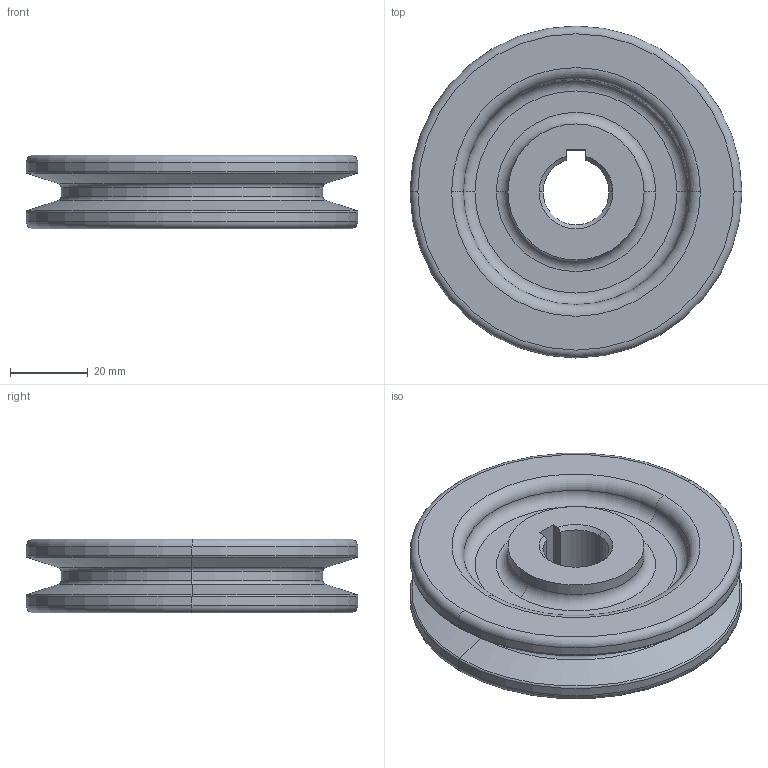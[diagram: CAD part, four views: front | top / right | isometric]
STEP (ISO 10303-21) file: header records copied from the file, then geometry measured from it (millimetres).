
FILE_DESCRIPTION (( 'STEP AP203' ), '1' );
FILE_NAME ('381225E1001-睡ヶ紫.STEP', '2018-12-27T09:13:16', ( '123132' ), ( '' ), 'SwSTEP 2.0', 'SolidWorks 2013', '' );
FILE_SCHEMA (( 'CONFIG_CONTROL_DESIGN' ));
Length unit declared in the file: millimetre
Products named in the file (1): 381225E1001-睡ヶ紫
Bounding box: 85.4 x 85.4 x 19 mm (x, y, z)
Volume: 69058.5 mm3; surface area: 21579.8 mm2
Topology: 1 solids, 1 shells, 56 faces, 118 edges, 68 vertices
Faces by surface type: torus 24, cylinder 13, cone 10, plane 9
Entity records: 1595 total; most frequent: DIRECTION 312, CARTESIAN_POINT 255, ORIENTED_EDGE 236, AXIS2_PLACEMENT_3D 141, EDGE_CURVE 118, CIRCLE 84, VERTEX_POINT 68, EDGE_LOOP 62
